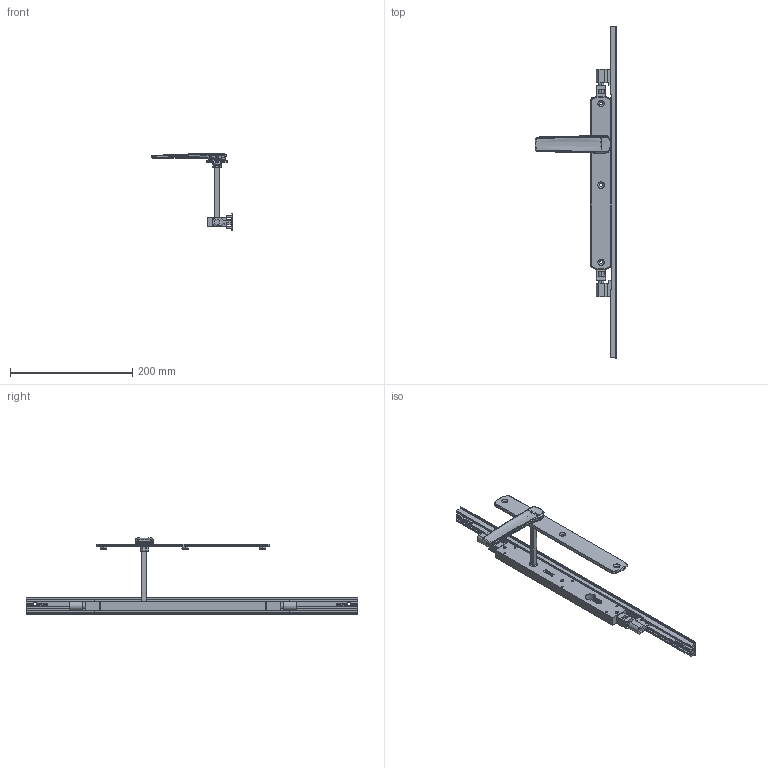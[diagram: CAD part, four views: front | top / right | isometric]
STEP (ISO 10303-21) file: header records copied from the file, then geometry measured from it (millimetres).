
FILE_DESCRIPTION (( 'STEP AP214' ), '1' );
FILE_NAME ('TPL-W-EU-614-U 06Nov2024.STEP', '2024-11-27T03:48:11', ( '' ), ( '' ), 'SwSTEP 2.0', 'SolidWorks 2023', '' );
FILE_SCHEMA (( 'AUTOMOTIVE_DESIGN' ));
Length unit declared in the file: millimetre
Products named in the file (18): Bolt.step; Copy of Adapter CnE - simplfied^TPL-W-EU-114 04Nov2024_26mm backset; Copy of LKC-584 Pivot body zinc - simplified^Copy of TPGen2 handle non-keyed long zinc - simplified_TPL-W-EU-114 04Nov2024; Copy of LKC-583 Escutcheon plate unkeyed 285mm long zinc - simplified^Copy of TPGen2 handle non-keyed long zinc - simplified_TPL-W-EU-114 04Nov2024; TPLGen2 push rod - simplified_Female thread M10; Copy of LKC-505 Swing handle zinc - simplified^Copy of TPGen2 handle non-keyed long zinc - simplified_TPL-W-EU-114 04Nov2024; Copy of COV-112-A Cover A suit TPLGen2 standard range^TPL-W-EU-114 04Nov2024_1335mm; Copy of LKC-531 Lock twinpoint transmission rod wood system^TPL-W-EU-114 04Nov2024_Standard Range (588.7mm); Copy of TPGen2 handle non-keyed long zinc - simplified^TPL-W-EU-114 04Nov2024_Left; Copy of TPLGen2 lock body keyed assembly^TPL-W-EU-114 04Nov2024_Bolts retracted; Copy of LKC-585 Rotator body zinc^Copy of TPGen2 handle non-keyed long zinc - simplified_TPL-W-EU-114 04Nov2024; Copy of Adapter DnF - simplfied^TPL-W-EU-114 04Nov2024_26mm backset; Copy of COV-112-B Cover B suit TPLGen2 standard range^TPL-W-EU-114 04Nov2024_2870mm; Copy of TPLGen2 lock body keyed^Copy of TPLGen2 lock body keyed assembly_TPL-W-EU-114 04Nov2024; Copy of LKC-586 Spindle square 8mm with M4 hole^Copy of TPGen2 handle non-keyed long zinc - simplified_TPL-W-EU-114 04Nov2024_100mm; Copy of COV-112-C Cover C TPLGen2 Lock body^TPL-W-EU-114 04Nov2024; TPL-W-EU-614-U 06Nov2024; Copy of Copy of LKC-531 Lock twinpoint transmission rod wood system^TPL-W-EU-114 04Nov2024_Standard Range 2891.7mm
Assembly tree (15 placements, depth 3):
  Bolt.step
  Copy of COV-112-A Cover A suit TPLGen2 standard range^TPL-W-EU-114 04Nov2024_1335mm
  Copy of COV-112-B Cover B suit TPLGen2 standard range^TPL-W-EU-114 04Nov2024_2870mm
  TPL-W-EU-614-U 06Nov2024
    Copy of TPLGen2 lock body keyed assembly^TPL-W-EU-114 04Nov2024_Bolts retracted
      Copy of TPLGen2 lock body keyed^Copy of TPLGen2 lock body keyed assembly_TPL-W-EU-114 04Nov2024
      TPLGen2 push rod - simplified_Female thread M10  x2
    Copy of TPGen2 handle non-keyed long zinc - simplified^TPL-W-EU-114 04Nov2024_Left
      Copy of LKC-583 Escutcheon plate unkeyed 285mm long zinc - simplified^Copy of TPGen2 handle non-keyed long zinc - simplified_TPL-W-EU-114 04Nov2024
      Copy of LKC-505 Swing handle zinc - simplified^Copy of TPGen2 handle non-keyed long zinc - simplified_TPL-W-EU-114 04Nov2024
      Copy of LKC-585 Rotator body zinc^Copy of TPGen2 handle non-keyed long zinc - simplified_TPL-W-EU-114 04Nov2024
      Copy of LKC-586 Spindle square 8mm with M4 hole^Copy of TPGen2 handle non-keyed long zinc - simplified_TPL-W-EU-114 04Nov2024_100mm
      Copy of LKC-584 Pivot body zinc - simplified^Copy of TPGen2 handle non-keyed long zinc - simplified_TPL-W-EU-114 04Nov2024
    Copy of COV-112-C Cover C TPLGen2 Lock body^TPL-W-EU-114 04Nov2024
    Copy of LKC-531 Lock twinpoint transmission rod wood system^TPL-W-EU-114 04Nov2024_Standard Range (588.7mm)
    Copy of Copy of LKC-531 Lock twinpoint transmission rod wood system^TPL-W-EU-114 04Nov2024_Standard Range 2891.7mm
    Copy of Adapter CnE - simplfied^TPL-W-EU-114 04Nov2024_26mm backset
    Copy of Adapter DnF - simplfied^TPL-W-EU-114 04Nov2024_26mm backset
Bounding box: 134.12 x 544 x 125.06 mm (x, y, z)
Volume: 275918.9 mm3; surface area: 138516.5 mm2
Topology: 13 solids, 13 shells, 889 faces, 2193 edges, 1364 vertices
Faces by surface type: plane 310, bspline 241, cylinder 208, cone 70, torus 52, sphere 8
Entity records: 31874 total; most frequent: CARTESIAN_POINT 12777, ORIENTED_EDGE 4194, DIRECTION 3431, EDGE_CURVE 2097, VERTEX_POINT 1304, AXIS2_PLACEMENT_3D 1260, EDGE_LOOP 949, LINE 911
